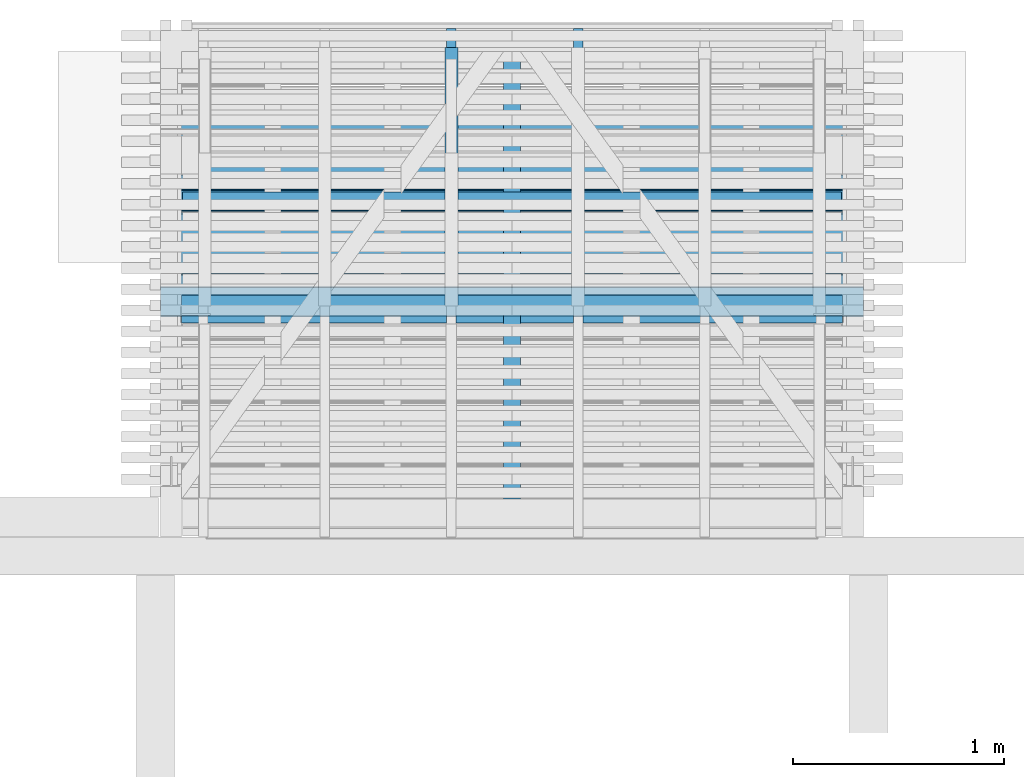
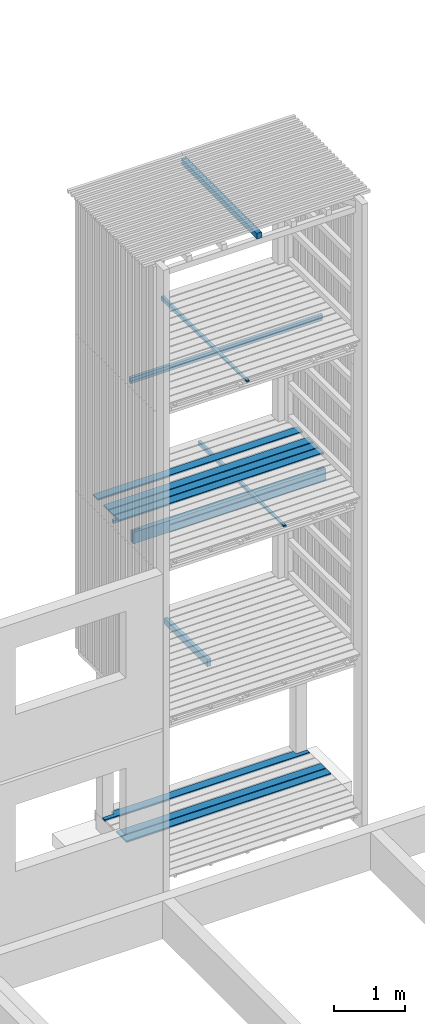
# One storey, part 75 of 182: 15 beams.
"""IFC2X3 building model written with IfcOpenShell, lengths in metres."""

from ifc_helpers import new_model, si_unit, frame, origin, place, context, project, spatial, faceted_brep, element, save


model = new_model("IFC2X3")

# Units and contexts
model_context = context("Model", 3, precision=1e-06, world=origin())
ifc_project = project(units=[si_unit("LENGTHUNIT", "METRE"), si_unit("PLANEANGLEUNIT", "RADIAN")], contexts=[model_context])

# Site, building, storey
site = spatial("IfcSite", under=ifc_project, CompositionType="ELEMENT")
building = spatial("IfcBuilding", under=site, CompositionType="ELEMENT")
storey = spatial("IfcBuildingStorey", under=building, Name="vs", CompositionType="ELEMENT", Elevation=-0.85)

# Beams
placement = place(None, origin())
beam_1_placement = place(placement, frame((26.374999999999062, 11.734577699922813, 0.033500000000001), z_axis=(0.0, 0.0, 1.0), x_axis=(-1.0, 0.0, 0.0)))
element("IfcBeam", 1, at=beam_1_placement, inside=storey, Name="Caillebotis", context=model_context, shape_type="Brep", body=[
    faceted_brep([(3.329999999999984, -0.067500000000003, 0.0135), (3.329999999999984, -0.072499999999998, 0.008500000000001), (3.329999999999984, -0.072499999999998, -0.013500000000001), (3.329999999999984, 0.072499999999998, -0.013500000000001), (3.329999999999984, 0.072499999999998, 0.0085), (3.329999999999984, 0.067500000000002, 0.0135), (0.0, 0.067499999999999, 0.0135), (0.0, 0.072499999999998, 0.0085), (0.0, 0.072499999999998, -0.013500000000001), (0.0, -0.072500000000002, -0.013500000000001), (0.0, -0.072500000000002, 0.008500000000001), (0.0, -0.067500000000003, 0.0135), (3.329999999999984, -0.072499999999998, -0.013500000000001), (3.329999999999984, -0.072499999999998, 0.008500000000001), (0.0, -0.072500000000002, 0.008500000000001), (0.0, -0.072500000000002, -0.013500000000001), (3.329999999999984, 0.072499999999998, -0.013500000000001), (3.329999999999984, -0.072499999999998, -0.013500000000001), (0.0, -0.072500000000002, -0.013500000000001), (0.0, 0.072499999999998, -0.013500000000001), (3.329999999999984, 0.072499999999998, 0.0085), (3.329999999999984, 0.072499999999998, -0.013500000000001), (0.0, 0.072499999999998, -0.013500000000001), (0.0, 0.072499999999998, 0.0085), (3.329999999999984, 0.067500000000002, 0.0135), (3.329999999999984, 0.072499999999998, 0.0085), (0.0, 0.072499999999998, 0.0085), (0.0, 0.067499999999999, 0.0135), (3.329999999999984, -0.067500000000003, 0.0135), (3.329999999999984, 0.067500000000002, 0.0135), (0.0, 0.067499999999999, 0.0135), (0.0, -0.067500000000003, 0.0135), (0.0, -0.072500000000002, 0.008500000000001), (3.329999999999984, -0.072499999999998, 0.008500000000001), (3.329999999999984, -0.067500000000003, 0.0135), (0.0, -0.067500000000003, 0.0135)], [[[0, 1, 2, 3, 4, 5]], [[6, 7, 8, 9, 10, 11]], [[12, 13, 14, 15]], [[16, 17, 18, 19]], [[20, 21, 22, 23]], [[24, 25, 26, 27]], [[28, 29, 30, 31]], [[32, 33, 34, 35]]]),
])
beam_2_placement = place(placement, frame((25.022999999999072, 10.470077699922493, 5.384400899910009), z_axis=(0.0, 0.0, 1.0), x_axis=(0.0, 1.0, 0.0)))
element("IfcBeam", 2, at=beam_2_placement, inside=storey, Name="Calage", context=model_context, shape_type="Brep", body=[
    faceted_brep([(2.410000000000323, -0.022499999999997, -0.035599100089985), (0.0, -0.022499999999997, 0.012600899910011), (0.0, 0.022500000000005, 0.012600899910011), (2.410000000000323, 0.02249999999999, -0.035599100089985), (0.0, 0.022500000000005, 0.035599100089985), (0.0, 0.022500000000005, 0.012600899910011), (0.0, -0.022499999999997, 0.012600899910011), (0.0, -0.022499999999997, 0.035599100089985), (2.410000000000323, 0.02249999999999, -0.035599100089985), (0.0, 0.022500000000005, 0.012600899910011), (0.0, 0.022500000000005, 0.035599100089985), (2.410000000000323, 0.022500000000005, 0.035599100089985), (2.410000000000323, -0.022499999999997, 0.035599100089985), (0.0, -0.022499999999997, 0.035599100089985), (0.0, -0.022499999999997, 0.012600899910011), (2.410000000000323, -0.022499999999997, -0.035599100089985), (2.410000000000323, 0.022500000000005, 0.035599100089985), (0.0, 0.022500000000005, 0.035599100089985), (0.0, -0.022499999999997, 0.035599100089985), (2.410000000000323, -0.022499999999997, 0.035599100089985), (2.410000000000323, 0.02249999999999, -0.035599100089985), (2.410000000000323, 0.022500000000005, 0.035599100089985), (2.410000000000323, -0.022499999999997, 0.035599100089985), (2.410000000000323, -0.022499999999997, -0.035599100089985)], [[[0, 1, 2, 3]], [[4, 5, 6, 7]], [[8, 9, 10, 11]], [[12, 13, 14, 15]], [[16, 17, 18, 19]], [[20, 21, 22, 23]]]),
])
beam_3_placement = place(placement, frame((26.374999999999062, 11.78457769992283, 5.433499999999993), z_axis=(0.0, 0.0, 1.0), x_axis=(-1.0, -8e-15, 0.0)))
element("IfcBeam", 3, at=beam_3_placement, inside=storey, Name="Caillebotis", context=model_context, shape_type="Brep", body=[
    faceted_brep([(3.329999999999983, -0.072500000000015, -0.0135), (3.329999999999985, 0.072499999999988, -0.0135), (3.329999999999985, 0.072499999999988, 0.0085), (3.329999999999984, 0.067499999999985, 0.0135), (3.329999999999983, -0.067500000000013, 0.0135), (3.329999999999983, -0.072500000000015, 0.008500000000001), (-1.5e-14, -0.072499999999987, 0.008500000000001), (-1.5e-14, -0.067499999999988, 0.0135), (-1.4e-14, 0.067500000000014, 0.0135), (-1.4e-14, 0.072500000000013, 0.0085), (-1.4e-14, 0.072500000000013, -0.0135), (-1.5e-14, -0.072499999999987, -0.0135), (3.329999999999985, 0.072499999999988, 0.0085), (3.329999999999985, 0.072499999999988, -0.0135), (-1.4e-14, 0.072500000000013, -0.0135), (-1.4e-14, 0.072500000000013, 0.0085), (3.329999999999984, 0.067499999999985, 0.0135), (3.329999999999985, 0.072499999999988, 0.0085), (-1.4e-14, 0.072500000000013, 0.0085), (-1.4e-14, 0.067500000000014, 0.0135), (3.329999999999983, -0.067500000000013, 0.0135), (3.329999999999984, 0.067499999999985, 0.0135), (-1.4e-14, 0.067500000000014, 0.0135), (-1.5e-14, -0.067499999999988, 0.0135), (3.329999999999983, -0.072500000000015, 0.008500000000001), (3.329999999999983, -0.067500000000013, 0.0135), (-1.5e-14, -0.067499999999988, 0.0135), (-1.5e-14, -0.072499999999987, 0.008500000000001), (3.329999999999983, -0.072500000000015, -0.0135), (3.329999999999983, -0.072500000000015, 0.008500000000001), (-1.5e-14, -0.072499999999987, 0.008500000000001), (-1.5e-14, -0.072499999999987, -0.0135), (-1.4e-14, 0.072500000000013, -0.0135), (3.329999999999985, 0.072499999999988, -0.0135), (3.329999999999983, -0.072500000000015, -0.0135), (-1.5e-14, -0.072499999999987, -0.0135)], [[[0, 1, 2, 3, 4, 5]], [[6, 7, 8, 9, 10, 11]], [[12, 13, 14, 15]], [[16, 17, 18, 19]], [[20, 21, 22, 23]], [[24, 25, 26, 27]], [[28, 29, 30, 31]], [[32, 33, 34, 35]]]),
])
beam_4_placement = place(placement, frame((24.709999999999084, 10.650077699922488, 10.404999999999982), z_axis=(0.0, 0.0, 1.0), x_axis=(0.0, 1.0, 0.0)))
element("IfcBeam", 4, at=beam_4_placement, inside=storey, Name="Support bardage", context=model_context, shape_type="Brep", body=[
    faceted_brep([(2.120000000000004, -0.039999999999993, 0.050000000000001), (2.120000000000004, 0.040000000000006, 0.050000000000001), (3e-15, 0.040000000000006, 0.050000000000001), (3e-15, -0.039999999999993, 0.050000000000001), (3e-15, 0.040000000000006, 0.050000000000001), (2.120000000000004, 0.040000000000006, 0.050000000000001), (2.120000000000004, 0.040000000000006, -0.050000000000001), (3e-15, 0.040000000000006, -0.050000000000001), (2.120000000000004, 0.040000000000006, 0.050000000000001), (2.120000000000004, -0.039999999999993, 0.050000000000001), (2.120000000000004, -0.039999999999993, -0.050000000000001), (2.120000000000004, 0.040000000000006, -0.050000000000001), (2.120000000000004, -0.039999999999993, -0.050000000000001), (2.120000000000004, -0.039999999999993, 0.050000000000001), (3e-15, -0.039999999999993, 0.050000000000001), (3e-15, -0.039999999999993, -0.050000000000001), (3e-15, 0.040000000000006, -0.050000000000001), (2.120000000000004, 0.040000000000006, -0.050000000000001), (2.120000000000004, -0.039999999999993, -0.050000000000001), (3e-15, -0.039999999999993, -0.050000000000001), (3e-15, 0.040000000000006, 0.050000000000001), (3e-15, 0.040000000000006, -0.050000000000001), (3e-15, -0.039999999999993, -0.050000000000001), (3e-15, -0.039999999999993, 0.050000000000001)], [[[0, 1, 2, 3]], [[4, 5, 6, 7]], [[8, 9, 10, 11]], [[12, 13, 14, 15]], [[16, 17, 18, 19]], [[20, 21, 22, 23]]]),
])
beam_5_placement = place(placement, frame((26.374999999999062, 11.934577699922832, 5.433499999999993), z_axis=(0.0, 0.0, 1.0), x_axis=(-1.0, -8e-15, 0.0)))
element("IfcBeam", 5, at=beam_5_placement, inside=storey, Name="Caillebotis", context=model_context, shape_type="Brep", body=[
    faceted_brep([(3.329999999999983, -0.072500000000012, -0.0135), (3.329999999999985, 0.072499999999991, -0.0135), (3.329999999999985, 0.072499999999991, 0.0085), (3.329999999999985, 0.067499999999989, 0.0135), (3.329999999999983, -0.067500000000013, 0.0135), (3.329999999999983, -0.072500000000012, 0.008500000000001), (-1.5e-14, -0.072499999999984, 0.008500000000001), (-1.5e-14, -0.067499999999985, 0.0135), (-1.4e-14, 0.067500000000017, 0.0135), (-1.4e-14, 0.072500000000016, 0.0085), (-1.4e-14, 0.072500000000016, -0.0135), (-1.5e-14, -0.072499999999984, -0.0135), (3.329999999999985, 0.072499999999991, 0.0085), (3.329999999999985, 0.072499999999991, -0.0135), (-1.4e-14, 0.072500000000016, -0.0135), (-1.4e-14, 0.072500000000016, 0.0085), (3.329999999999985, 0.067499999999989, 0.0135), (3.329999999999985, 0.072499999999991, 0.0085), (-1.4e-14, 0.072500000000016, 0.0085), (-1.4e-14, 0.067500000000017, 0.0135), (3.329999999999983, -0.067500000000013, 0.0135), (3.329999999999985, 0.067499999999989, 0.0135), (-1.4e-14, 0.067500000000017, 0.0135), (-1.5e-14, -0.067499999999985, 0.0135), (3.329999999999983, -0.072500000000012, 0.008500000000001), (3.329999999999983, -0.067500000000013, 0.0135), (-1.5e-14, -0.067499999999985, 0.0135), (-1.5e-14, -0.072499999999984, 0.008500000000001), (3.329999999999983, -0.072500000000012, -0.0135), (3.329999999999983, -0.072500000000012, 0.008500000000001), (-1.5e-14, -0.072499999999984, 0.008500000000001), (-1.5e-14, -0.072499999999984, -0.0135), (-1.4e-14, 0.072500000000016, -0.0135), (3.329999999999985, 0.072499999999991, -0.0135), (3.329999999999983, -0.072500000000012, -0.0135), (-1.5e-14, -0.072499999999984, -0.0135)], [[[0, 1, 2, 3, 4, 5]], [[6, 7, 8, 9, 10, 11]], [[12, 13, 14, 15]], [[16, 17, 18, 19]], [[20, 21, 22, 23]], [[24, 25, 26, 27]], [[28, 29, 30, 31]], [[32, 33, 34, 35]]]),
])
beam_6_placement = place(placement, frame((26.374999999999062, 12.384577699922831, 5.433499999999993), z_axis=(0.0, 0.0, 1.0), x_axis=(-1.0, -1e-14, 0.0)))
element("IfcBeam", 6, at=beam_6_placement, inside=storey, Name="Caillebotis", context=model_context, shape_type="Brep", body=[
    faceted_brep([(3.329999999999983, -0.072500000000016, -0.0135), (3.329999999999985, 0.072499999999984, -0.0135), (3.329999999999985, 0.072499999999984, 0.0085), (3.329999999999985, 0.067499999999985, 0.0135), (3.329999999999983, -0.067500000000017, 0.0135), (3.329999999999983, -0.072500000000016, 0.008500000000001), (-1.5e-14, -0.072499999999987, 0.008500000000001), (-1.5e-14, -0.067499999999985, 0.0135), (-1.4e-14, 0.067500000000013, 0.0135), (-1.4e-14, 0.072500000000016, 0.0085), (-1.4e-14, 0.072500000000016, -0.0135), (-1.5e-14, -0.072499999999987, -0.0135), (3.329999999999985, 0.072499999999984, 0.0085), (3.329999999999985, 0.072499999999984, -0.0135), (-1.4e-14, 0.072500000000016, -0.0135), (-1.4e-14, 0.072500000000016, 0.0085), (3.329999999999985, 0.067499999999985, 0.0135), (3.329999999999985, 0.072499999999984, 0.0085), (-1.4e-14, 0.072500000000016, 0.0085), (-1.4e-14, 0.067500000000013, 0.0135), (3.329999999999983, -0.067500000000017, 0.0135), (3.329999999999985, 0.067499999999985, 0.0135), (-1.4e-14, 0.067500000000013, 0.0135), (-1.5e-14, -0.067499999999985, 0.0135), (3.329999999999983, -0.072500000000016, 0.008500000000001), (3.329999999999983, -0.067500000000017, 0.0135), (-1.5e-14, -0.067499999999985, 0.0135), (-1.5e-14, -0.072499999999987, 0.008500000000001), (3.329999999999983, -0.072500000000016, -0.0135), (3.329999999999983, -0.072500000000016, 0.008500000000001), (-1.5e-14, -0.072499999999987, 0.008500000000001), (-1.5e-14, -0.072499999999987, -0.0135), (-1.4e-14, 0.072500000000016, -0.0135), (3.329999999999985, 0.072499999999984, -0.0135), (3.329999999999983, -0.072500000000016, -0.0135), (-1.5e-14, -0.072499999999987, -0.0135)], [[[0, 1, 2, 3, 4, 5]], [[6, 7, 8, 9, 10, 11]], [[12, 13, 14, 15]], [[16, 17, 18, 19]], [[20, 21, 22, 23]], [[24, 25, 26, 27]], [[28, 29, 30, 31]], [[32, 33, 34, 35]]]),
])
beam_7_placement = place(placement, frame((26.269999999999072, 11.595077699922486, 7.86739999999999), z_axis=(0.0, 0.0, 1.0), x_axis=(-1.0, 0.0, 0.0)))
element("IfcBeam", 7, at=beam_7_placement, inside=storey, Name="Bardage", context=model_context, shape_type="Brep", body=[
    faceted_brep([(-3e-15, 0.024999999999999, -0.024999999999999), (-3e-15, -0.025000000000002, -0.024999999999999), (-3e-15, -0.025000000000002, 0.025000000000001), (-3e-15, 0.024999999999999, 0.025000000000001), (3.120000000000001, -0.025000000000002, 0.025000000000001), (3.120000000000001, -0.025000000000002, -0.024999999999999), (3.120000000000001, 0.025000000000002, -0.024999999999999), (3.120000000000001, 0.025000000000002, 0.025000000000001), (3.120000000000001, -0.025000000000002, -0.024999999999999), (3.120000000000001, -0.025000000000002, 0.025000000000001), (-3e-15, -0.025000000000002, 0.025000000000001), (-3e-15, -0.025000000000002, -0.024999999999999), (3.120000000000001, 0.025000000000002, -0.024999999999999), (3.120000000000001, -0.025000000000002, -0.024999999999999), (-3e-15, -0.025000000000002, -0.024999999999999), (-3e-15, 0.024999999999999, -0.024999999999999), (3.120000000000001, 0.025000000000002, 0.025000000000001), (3.120000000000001, 0.025000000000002, -0.024999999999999), (-3e-15, 0.024999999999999, -0.024999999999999), (-3e-15, 0.024999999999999, 0.025000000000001), (3.120000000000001, -0.025000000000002, 0.025000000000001), (3.120000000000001, 0.025000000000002, 0.025000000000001), (-3e-15, 0.024999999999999, 0.025000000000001), (-3e-15, -0.025000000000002, 0.025000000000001)], [[[0, 1, 2, 3]], [[4, 5, 6, 7]], [[8, 9, 10, 11]], [[12, 13, 14, 15]], [[16, 17, 18, 19]], [[20, 21, 22, 23]]]),
])
beam_8_placement = place(placement, frame((24.422999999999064, 11.565077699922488, 2.604249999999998), z_axis=(0.0, 0.0, 1.0), x_axis=(1.2e-14, 1.0, 0.0)))
element("IfcBeam", 8, at=beam_8_placement, inside=storey, Name="Solive", context=model_context, shape_type="Brep", body=[
    faceted_brep([(0.0, -0.030000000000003, -0.06185), (1.225000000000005, -0.029999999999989, -0.06185), (1.225000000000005, -0.029999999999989, 0.037349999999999), (0.0, -0.030000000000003, 0.06185), (-1e-15, 0.029999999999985, -0.06185), (1.225000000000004, 0.029999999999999, -0.06185), (1.225000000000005, -0.029999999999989, -0.06185), (0.0, -0.030000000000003, -0.06185), (-1e-15, 0.029999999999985, 0.06185), (-1e-15, 0.029999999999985, -0.06185), (0.0, -0.030000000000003, -0.06185), (0.0, -0.030000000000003, 0.06185), (1.225000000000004, 0.029999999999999, -0.06185), (-1e-15, 0.029999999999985, -0.06185), (-1e-15, 0.029999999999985, 0.06185), (1.225000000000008, 0.029999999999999, 0.037349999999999), (1.225000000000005, -0.029999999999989, 0.037349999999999), (1.225000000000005, -0.029999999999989, -0.06185), (1.225000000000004, 0.029999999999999, -0.06185), (1.225000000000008, 0.029999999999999, 0.037349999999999), (0.0, -0.030000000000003, 0.06185), (1.225000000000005, -0.029999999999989, 0.037349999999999), (1.225000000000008, 0.029999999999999, 0.037349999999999), (-1e-15, 0.029999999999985, 0.06185)], [[[0, 1, 2, 3]], [[4, 5, 6, 7]], [[8, 9, 10, 11]], [[12, 13, 14, 15]], [[16, 17, 18, 19]], [[20, 21, 22, 23]]]),
])
beam_9_placement = place(placement, frame((26.374999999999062, 12.184577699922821, 0.033500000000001), z_axis=(0.0, 0.0, 1.0), x_axis=(-1.0, 0.0, 0.0)))
element("IfcBeam", 9, at=beam_9_placement, inside=storey, Name="Caillebotis", context=model_context, shape_type="Brep", body=[
    faceted_brep([(0.184999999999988, -0.000499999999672, -0.0135), (0.184999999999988, -0.072499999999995, -0.0135), (0.184999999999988, -0.072499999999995, 0.008500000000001), (0.184999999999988, -0.067499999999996, 0.0135), (0.184999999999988, -0.000499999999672, 0.0135), (3.329999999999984, -0.000499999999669, 0.0135), (3.329999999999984, -0.000499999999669, -0.013500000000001), (3.329999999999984, 0.072500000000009, -0.013500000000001), (3.329999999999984, 0.072500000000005, 0.0085), (3.329999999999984, 0.067500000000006, 0.0135), (3.144999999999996, -0.072499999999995, 0.008500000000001), (3.144999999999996, -0.072499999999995, -0.013500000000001), (3.144999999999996, -0.000499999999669, -0.013500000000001), (3.144999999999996, -0.000499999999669, 0.0135), (3.144999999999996, -0.067499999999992, 0.0135), (3.144999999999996, -0.000499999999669, 0.0135), (3.144999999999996, -0.000499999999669, -0.013500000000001), (3.329999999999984, -0.000499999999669, -0.013500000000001), (3.329999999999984, -0.000499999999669, 0.0135), (0.184999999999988, -0.067499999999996, 0.0135), (0.184999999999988, -0.072499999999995, 0.008500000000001), (3.144999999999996, -0.072499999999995, 0.008500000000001), (3.144999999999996, -0.067499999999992, 0.0135), (0.184999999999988, -0.072499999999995, 0.008500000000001), (0.184999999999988, -0.072499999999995, -0.0135), (3.144999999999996, -0.072499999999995, -0.013500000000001), (3.144999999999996, -0.072499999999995, 0.008500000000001), (0.0, 0.072500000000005, -0.0135), (0.0, -0.000499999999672, -0.0135), (0.0, -0.000499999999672, 0.0135), (0.0, 0.067500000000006, 0.0135), (0.0, 0.072500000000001, 0.0085), (0.184999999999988, -0.000499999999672, 0.0135), (0.184999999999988, -0.067499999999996, 0.0135), (3.144999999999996, -0.067499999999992, 0.0135), (3.144999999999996, -0.000499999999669, 0.0135), (3.329999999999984, -0.000499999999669, 0.0135), (3.329999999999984, 0.067500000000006, 0.0135), (0.0, 0.067500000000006, 0.0135), (0.0, -0.000499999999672, 0.0135), (0.184999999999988, -0.000499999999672, -0.0135), (0.184999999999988, -0.000499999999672, 0.0135), (0.0, -0.000499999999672, 0.0135), (0.0, -0.000499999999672, -0.0135), (3.329999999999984, 0.072500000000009, -0.013500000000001), (3.329999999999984, -0.000499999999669, -0.013500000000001), (3.144999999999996, -0.000499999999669, -0.013500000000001), (3.144999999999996, -0.072499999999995, -0.013500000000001), (0.184999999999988, -0.072499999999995, -0.0135), (0.184999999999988, -0.000499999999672, -0.0135), (0.0, -0.000499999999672, -0.0135), (0.0, 0.072500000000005, -0.0135), (3.329999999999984, 0.072500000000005, 0.0085), (3.329999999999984, 0.072500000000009, -0.013500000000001), (0.0, 0.072500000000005, -0.0135), (0.0, 0.072500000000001, 0.0085), (0.0, 0.067500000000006, 0.0135), (3.329999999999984, 0.067500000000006, 0.0135), (3.329999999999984, 0.072500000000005, 0.0085), (0.0, 0.072500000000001, 0.0085)], [[[0, 1, 2, 3, 4]], [[5, 6, 7, 8, 9]], [[10, 11, 12, 13, 14]], [[15, 16, 17, 18]], [[19, 20, 21, 22]], [[23, 24, 25, 26]], [[27, 28, 29, 30, 31]], [[32, 33, 34, 35, 36, 37, 38, 39]], [[40, 41, 42, 43]], [[44, 45, 46, 47, 48, 49, 50, 51]], [[52, 53, 54, 55]], [[56, 57, 58, 59]]]),
])
beam_10_placement = place(placement, frame((26.374999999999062, 11.584577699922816, 0.033500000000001), z_axis=(0.0, 0.0, 1.0), x_axis=(-1.0, 0.0, 0.0)))
element("IfcBeam", 10, at=beam_10_placement, inside=storey, Name="Caillebotis", context=model_context, shape_type="Brep", body=[
    faceted_brep([(3.329999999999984, -0.067500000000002, 0.0135), (3.329999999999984, -0.072499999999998, 0.008500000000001), (3.329999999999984, -0.072499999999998, -0.013500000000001), (3.329999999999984, 0.072500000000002, -0.013500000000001), (3.329999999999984, 0.072499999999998, 0.0085), (3.329999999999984, 0.067500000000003, 0.0135), (0.0, 0.067500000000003, 0.0135), (0.0, 0.072499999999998, 0.0085), (0.0, 0.072499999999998, -0.013500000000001), (0.0, -0.072500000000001, -0.013500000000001), (0.0, -0.072500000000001, 0.008500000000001), (0.0, -0.067500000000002, 0.0135), (3.329999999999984, -0.072499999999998, -0.013500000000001), (3.329999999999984, -0.072499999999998, 0.008500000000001), (0.0, -0.072500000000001, 0.008500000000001), (0.0, -0.072500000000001, -0.013500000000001), (3.329999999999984, 0.072500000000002, -0.013500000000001), (3.329999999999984, -0.072499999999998, -0.013500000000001), (0.0, -0.072500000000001, -0.013500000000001), (0.0, 0.072499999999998, -0.013500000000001), (3.329999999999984, 0.072499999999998, 0.0085), (3.329999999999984, 0.072500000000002, -0.013500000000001), (0.0, 0.072499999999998, -0.013500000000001), (0.0, 0.072499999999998, 0.0085), (3.329999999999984, 0.067500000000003, 0.0135), (3.329999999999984, 0.072499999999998, 0.0085), (0.0, 0.072499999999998, 0.0085), (0.0, 0.067500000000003, 0.0135), (3.329999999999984, -0.067500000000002, 0.0135), (3.329999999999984, 0.067500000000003, 0.0135), (0.0, 0.067500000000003, 0.0135), (0.0, -0.067500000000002, 0.0135), (0.0, -0.072500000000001, 0.008500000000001), (3.329999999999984, -0.072499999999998, 0.008500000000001), (3.329999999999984, -0.067500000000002, 0.0135), (0.0, -0.067500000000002, 0.0135)], [[[0, 1, 2, 3, 4, 5]], [[6, 7, 8, 9, 10, 11]], [[12, 13, 14, 15]], [[16, 17, 18, 19]], [[20, 21, 22, 23]], [[24, 25, 26, 27]], [[28, 29, 30, 31]], [[32, 33, 34, 35]]]),
])
beam_11_placement = place(placement, frame((26.374999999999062, 12.084577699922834, 5.433499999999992), z_axis=(0.0, 0.0, 1.0), x_axis=(-1.0, -1e-14, 0.0)))
element("IfcBeam", 11, at=beam_11_placement, inside=storey, Name="Caillebotis", context=model_context, shape_type="Brep", body=[
    faceted_brep([(3.329999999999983, -0.072500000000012, -0.013499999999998), (3.329999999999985, 0.072499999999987, -0.013499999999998), (3.329999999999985, 0.072499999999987, 0.008500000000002), (3.329999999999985, 0.067499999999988, 0.013500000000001), (3.329999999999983, -0.067500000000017, 0.013500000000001), (3.329999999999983, -0.072500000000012, 0.008500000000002), (-1.5e-14, -0.07249999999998, 0.008500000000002), (-1.5e-14, -0.067499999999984, 0.013500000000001), (-1.4e-14, 0.067500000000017, 0.013500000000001), (-1.4e-14, 0.072500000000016, 0.008500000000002), (-1.4e-14, 0.072500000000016, -0.013499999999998), (-1.5e-14, -0.07249999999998, -0.013499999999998), (3.329999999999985, 0.072499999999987, 0.008500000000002), (3.329999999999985, 0.072499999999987, -0.013499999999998), (-1.4e-14, 0.072500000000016, -0.013499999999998), (-1.4e-14, 0.072500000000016, 0.008500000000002), (3.329999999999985, 0.067499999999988, 0.013500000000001), (3.329999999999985, 0.072499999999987, 0.008500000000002), (-1.4e-14, 0.072500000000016, 0.008500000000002), (-1.4e-14, 0.067500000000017, 0.013500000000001), (3.329999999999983, -0.067500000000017, 0.013500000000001), (3.329999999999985, 0.067499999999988, 0.013500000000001), (-1.4e-14, 0.067500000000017, 0.013500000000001), (-1.5e-14, -0.067499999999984, 0.013500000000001), (3.329999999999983, -0.072500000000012, 0.008500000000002), (3.329999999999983, -0.067500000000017, 0.013500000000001), (-1.5e-14, -0.067499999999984, 0.013500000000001), (-1.5e-14, -0.07249999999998, 0.008500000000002), (3.329999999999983, -0.072500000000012, -0.013499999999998), (3.329999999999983, -0.072500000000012, 0.008500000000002), (-1.5e-14, -0.07249999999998, 0.008500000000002), (-1.5e-14, -0.07249999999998, -0.013499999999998), (-1.4e-14, 0.072500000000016, -0.013499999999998), (3.329999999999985, 0.072499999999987, -0.013499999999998), (3.329999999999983, -0.072500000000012, -0.013499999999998), (-1.5e-14, -0.07249999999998, -0.013499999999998)], [[[0, 1, 2, 3, 4, 5]], [[6, 7, 8, 9, 10, 11]], [[12, 13, 14, 15]], [[16, 17, 18, 19]], [[20, 21, 22, 23]], [[24, 25, 26, 27]], [[28, 29, 30, 31]], [[32, 33, 34, 35]]]),
])
beam_12_placement = place(placement, frame((23.144999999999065, 11.590077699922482, 7.917399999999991), z_axis=(0.0, 0.0, 1.0), x_axis=(1.0, 0.0, 0.0)))
element("IfcBeam", 12, at=beam_12_placement, inside=storey, Name="Ligneul", context=model_context, shape_type="Brep", body=[
    faceted_brep([(4e-15, -0.024999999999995, 0.024999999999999), (4e-15, -0.024999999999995, -0.025000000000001), (3.129999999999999, -0.024999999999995, -0.025000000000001), (3.129999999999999, -0.024999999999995, 0.024999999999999), (4e-15, 0.025000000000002, 0.024999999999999), (4e-15, -0.024999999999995, 0.024999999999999), (3.129999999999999, -0.024999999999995, 0.024999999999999), (3.129999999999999, 0.025000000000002, 0.024999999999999), (4e-15, -0.024999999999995, 0.024999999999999), (4e-15, 0.025000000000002, 0.024999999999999), (4e-15, 0.025000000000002, -0.025000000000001), (4e-15, -0.024999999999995, -0.025000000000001), (4e-15, 0.025000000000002, -0.025000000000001), (4e-15, 0.025000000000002, 0.024999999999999), (3.129999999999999, 0.025000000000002, 0.024999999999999), (3.129999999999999, 0.025000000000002, -0.025000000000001), (3.129999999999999, -0.024999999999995, -0.025000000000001), (4e-15, -0.024999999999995, -0.025000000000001), (4e-15, 0.025000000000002, -0.025000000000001), (3.129999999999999, 0.025000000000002, -0.025000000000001), (3.129999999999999, -0.024999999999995, 0.024999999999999), (3.129999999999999, -0.024999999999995, -0.025000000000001), (3.129999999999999, 0.025000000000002, -0.025000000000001), (3.129999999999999, 0.025000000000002, 0.024999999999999)], [[[0, 1, 2, 3]], [[4, 5, 6, 7]], [[8, 9, 10, 11]], [[12, 13, 14, 15]], [[16, 17, 18, 19]], [[20, 21, 22, 23]]]),
])
beam_13_placement = place(placement, frame((26.274999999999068, 11.525077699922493, 5.239999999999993), z_axis=(0.0, 0.0, 1.0), x_axis=(-1.0, -2e-15, 0.0)))
element("IfcBeam", 13, at=beam_13_placement, inside=storey, Name="Sommier", context=model_context, shape_type="Brep", body=[
    faceted_brep([(0.137000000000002, -0.003999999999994, -0.100000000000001), (1e-15, -0.003999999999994, -0.100000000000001), (1e-15, -0.003999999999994, 0.100000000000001), (0.137000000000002, -0.003999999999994, 0.100000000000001), (0.137000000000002, 0.004000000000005, -0.100000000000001), (0.137000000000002, -0.003999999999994, -0.100000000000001), (0.137000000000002, -0.003999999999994, 0.100000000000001), (0.137000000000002, 0.004000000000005, 0.100000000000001), (1e-15, 0.004000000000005, -0.100000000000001), (0.137000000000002, 0.004000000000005, -0.100000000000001), (0.137000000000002, 0.004000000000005, 0.100000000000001), (1e-15, 0.004000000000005, 0.100000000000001), (1e-15, -0.003999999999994, 0.100000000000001), (1e-15, -0.003999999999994, -0.100000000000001), (1e-15, -0.039999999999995, -0.100000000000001), (1e-15, -0.039999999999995, 0.100000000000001), (1e-15, 0.040000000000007, 0.100000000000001), (1e-15, 0.040000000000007, -0.100000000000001), (1e-15, 0.004000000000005, -0.100000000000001), (1e-15, 0.004000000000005, 0.100000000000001), (2.992999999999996, 0.004000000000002, 0.100000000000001), (2.992999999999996, 0.004000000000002, -0.100000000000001), (3.129999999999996, 0.004000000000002, -0.1), (3.129999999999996, 0.004000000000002, 0.100000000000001), (2.992999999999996, -0.004000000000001, 0.100000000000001), (2.992999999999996, -0.004000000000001, -0.100000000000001), (2.992999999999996, 0.004000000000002, -0.100000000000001), (2.992999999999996, 0.004000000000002, 0.100000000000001), (3.129999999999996, -0.004000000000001, 0.100000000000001), (3.129999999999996, -0.004000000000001, -0.100000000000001), (2.992999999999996, -0.004000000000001, -0.100000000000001), (2.992999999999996, -0.004000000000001, 0.100000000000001), (3.129999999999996, 0.004000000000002, 0.100000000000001), (3.129999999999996, 0.004000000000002, -0.1), (3.129999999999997, 0.04, -0.1), (3.129999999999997, 0.04, 0.100000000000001), (3.129999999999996, -0.040000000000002, 0.100000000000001), (3.129999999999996, -0.040000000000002, -0.1), (3.129999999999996, -0.004000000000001, -0.100000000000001), (3.129999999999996, -0.004000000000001, 0.100000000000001), (2.992999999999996, 0.004000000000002, 0.100000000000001), (3.129999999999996, 0.004000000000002, 0.100000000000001), (3.129999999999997, 0.04, 0.100000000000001), (1e-15, 0.040000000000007, 0.100000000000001), (1e-15, 0.004000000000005, 0.100000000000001), (0.137000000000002, 0.004000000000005, 0.100000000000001), (0.137000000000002, -0.003999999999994, 0.100000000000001), (1e-15, -0.003999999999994, 0.100000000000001), (1e-15, -0.039999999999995, 0.100000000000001), (3.129999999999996, -0.040000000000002, 0.100000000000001), (3.129999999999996, -0.004000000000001, 0.100000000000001), (2.992999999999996, -0.004000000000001, 0.100000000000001), (1e-15, -0.039999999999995, -0.100000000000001), (1e-15, -0.003999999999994, -0.100000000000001), (0.137000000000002, -0.003999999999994, -0.100000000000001), (0.137000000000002, 0.004000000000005, -0.100000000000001), (1e-15, 0.004000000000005, -0.100000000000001), (1e-15, 0.040000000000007, -0.100000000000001), (3.129999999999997, 0.04, -0.1), (3.129999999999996, 0.004000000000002, -0.1), (2.992999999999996, 0.004000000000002, -0.100000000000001), (2.992999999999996, -0.004000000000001, -0.100000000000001), (3.129999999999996, -0.004000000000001, -0.100000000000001), (3.129999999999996, -0.040000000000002, -0.1), (1e-15, -0.039999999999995, -0.100000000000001), (3.129999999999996, -0.040000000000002, -0.1), (3.129999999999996, -0.040000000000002, 0.100000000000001), (1e-15, -0.039999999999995, 0.100000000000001), (1e-15, 0.040000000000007, 0.100000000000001), (3.129999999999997, 0.04, 0.100000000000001), (3.129999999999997, 0.04, -0.1), (1e-15, 0.040000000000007, -0.100000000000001)], [[[0, 1, 2, 3]], [[4, 5, 6, 7]], [[8, 9, 10, 11]], [[12, 13, 14, 15]], [[16, 17, 18, 19]], [[20, 21, 22, 23]], [[24, 25, 26, 27]], [[28, 29, 30, 31]], [[32, 33, 34, 35]], [[36, 37, 38, 39]], [[40, 41, 42, 43, 44, 45, 46, 47, 48, 49, 50, 51]], [[52, 53, 54, 55, 56, 57, 58, 59, 60, 61, 62, 63]], [[64, 65, 66, 67]], [[68, 69, 70, 71]]]),
])
beam_14_placement = place(placement, frame((26.269999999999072, 12.080494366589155, 5.167399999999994), z_axis=(0.0, 0.0, 1.0), x_axis=(-1.0, 0.0, 0.0)))
element("IfcBeam", 14, at=beam_14_placement, inside=storey, Name="Bardage", context=model_context, shape_type="Brep", body=[
    faceted_brep([(3.120000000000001, 0.024999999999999, -0.024999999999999), (3.120000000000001, 0.024999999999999, 0.024999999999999), (3.120000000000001, -0.024999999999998, 0.024999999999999), (3.120000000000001, -0.024999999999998, -0.024999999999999), (-3e-15, -0.025000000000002, -0.024999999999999), (-3e-15, -0.025000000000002, 0.024999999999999), (-3e-15, 0.024999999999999, 0.024999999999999), (-3e-15, 0.024999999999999, -0.024999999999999), (-3e-15, 0.024999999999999, -0.024999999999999), (-3e-15, 0.024999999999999, 0.024999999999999), (3.120000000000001, 0.024999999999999, 0.024999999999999), (3.120000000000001, 0.024999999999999, -0.024999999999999), (-3e-15, 0.024999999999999, 0.024999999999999), (-3e-15, -0.025000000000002, 0.024999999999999), (3.120000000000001, -0.024999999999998, 0.024999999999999), (3.120000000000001, 0.024999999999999, 0.024999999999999), (-3e-15, -0.025000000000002, 0.024999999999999), (-3e-15, -0.025000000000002, -0.024999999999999), (3.120000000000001, -0.024999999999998, -0.024999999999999), (3.120000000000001, -0.024999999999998, 0.024999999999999), (-3e-15, -0.025000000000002, -0.024999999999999), (-3e-15, 0.024999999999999, -0.024999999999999), (3.120000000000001, 0.024999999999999, -0.024999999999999), (3.120000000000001, -0.024999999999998, -0.024999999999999)], [[[0, 1, 2, 3]], [[4, 5, 6, 7]], [[8, 9, 10, 11]], [[12, 13, 14, 15]], [[16, 17, 18, 19]], [[20, 21, 22, 23]]]),
])
beam_15_placement = place(placement, frame((24.422999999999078, 10.470077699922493, 8.084400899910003), z_axis=(0.0, 0.0, 1.0), x_axis=(0.0, 1.0, 0.0)))
element("IfcBeam", 15, at=beam_15_placement, inside=storey, Name="Calage", context=model_context, shape_type="Brep", body=[
    faceted_brep([(2.410000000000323, -0.022499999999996, -0.035599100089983), (0.0, -0.022499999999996, 0.012600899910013), (0.0, 0.022500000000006, 0.012600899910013), (2.410000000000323, 0.022500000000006, -0.035599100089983), (0.0, 0.022500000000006, 0.035599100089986), (0.0, 0.022500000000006, 0.012600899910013), (0.0, -0.022499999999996, 0.012600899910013), (0.0, -0.022499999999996, 0.035599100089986), (2.410000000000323, 0.022500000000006, -0.035599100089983), (0.0, 0.022500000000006, 0.012600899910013), (0.0, 0.022500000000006, 0.035599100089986), (2.410000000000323, 0.022500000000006, 0.035599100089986), (2.410000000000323, -0.022499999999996, 0.035599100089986), (0.0, -0.022499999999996, 0.035599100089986), (0.0, -0.022499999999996, 0.012600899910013), (2.410000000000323, -0.022499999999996, -0.035599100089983), (2.410000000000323, 0.022500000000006, 0.035599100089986), (0.0, 0.022500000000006, 0.035599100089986), (0.0, -0.022499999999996, 0.035599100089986), (2.410000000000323, -0.022499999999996, 0.035599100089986), (2.410000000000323, 0.022500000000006, -0.035599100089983), (2.410000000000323, 0.022500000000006, 0.035599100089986), (2.410000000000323, -0.022499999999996, 0.035599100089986), (2.410000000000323, -0.022499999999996, -0.035599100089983)], [[[0, 1, 2, 3]], [[4, 5, 6, 7]], [[8, 9, 10, 11]], [[12, 13, 14, 15]], [[16, 17, 18, 19]], [[20, 21, 22, 23]]]),
])

save(model, "model.ifc")
